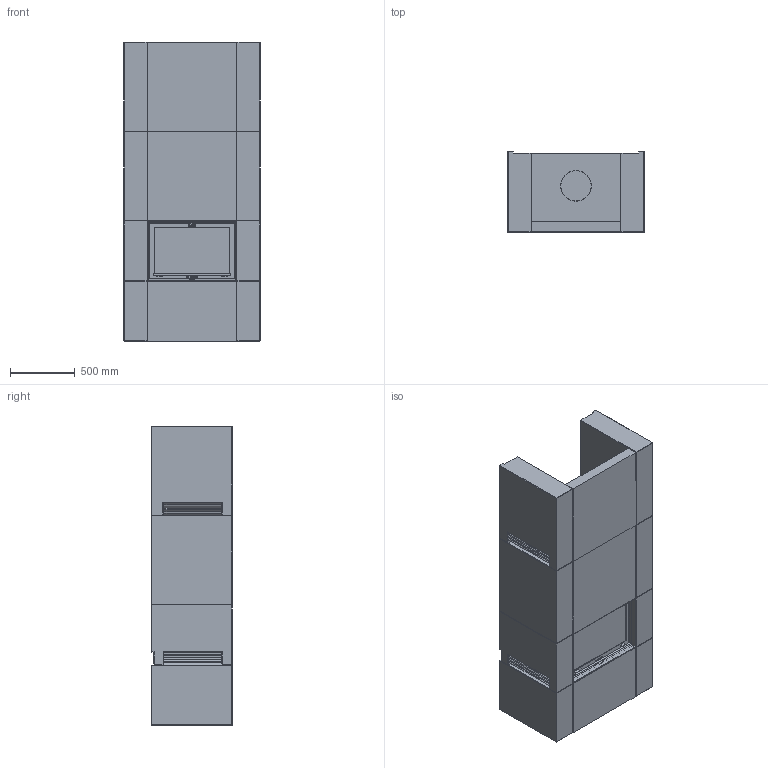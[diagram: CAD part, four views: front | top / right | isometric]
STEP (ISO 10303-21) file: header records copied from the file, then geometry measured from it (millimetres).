
FILE_DESCRIPTION( ( 'Unknown' ), '1' );
FILE_NAME( 'C:/Documents and Settings/hapierrea/Application Data/Unigraphics Solutions/Solid Edge/Insight/insight/Insight/interior models/C11S High Assembly.stp', '2010', ( 'Unknown' ), ( 'NIBE AB' ), 'PSStep 11.0', 'Solid Edge', ' ' );
FILE_SCHEMA( ( 'AUTOMOTIVE_DESIGN { 1 0 10303 214 1 1 1 1 }' ) );
Length unit declared in the file: millimetre
Products named in the file (36): Assem1; Fire i10; Grate i10 i20; Grills extension C11; Grills C11; Insert i10; Front extension C11S; Firebox insulation i10; Front set C11S; Concrete extension C11; Door i10; Door frame i10; Concrete set C11-oa0; Glass i10
Bounding box: 1050 x 620 x 2304 mm (x, y, z)
Surface area: 55256021.5 mm2
Topology: 70 solids, 70 shells, 3302 faces, 8510 edges, 5606 vertices
Faces by surface type: plane 2412, extrusion 570, cylinder 296, cone 20, sphere 4
Full cylindrical faces by diameter (mm): 10 x44, 12 x2, 100 x6, 200 x6, 233.561 x2, 236.938 x2
Entity records: 70433 total; most frequent: CARTESIAN_POINT 18242, ORIENTED_EDGE 8442, DIRECTION 6673, EDGE_CURVE 4221, VERTEX_POINT 2802, VECTOR 2779, LINE 2494, AXIS2_PLACEMENT_3D 1947
